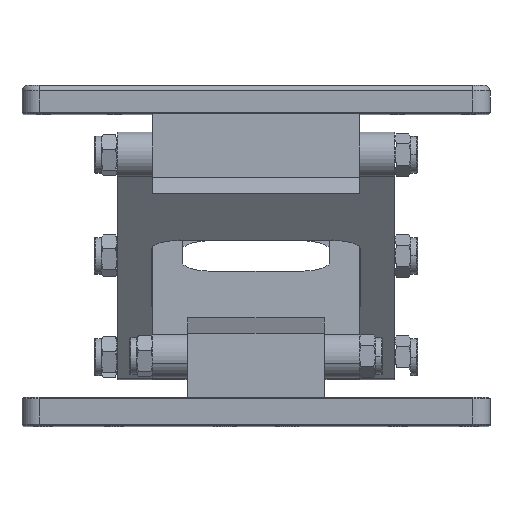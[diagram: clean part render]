
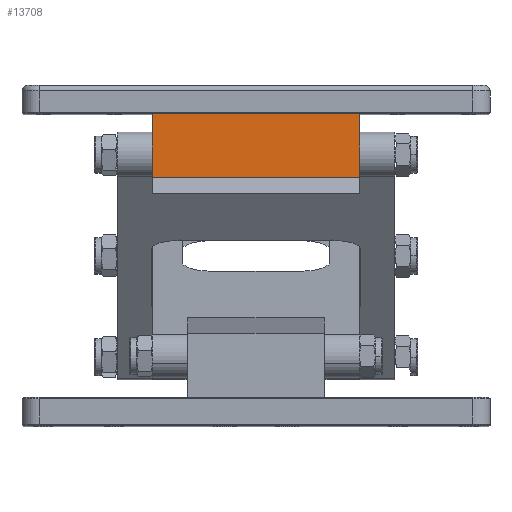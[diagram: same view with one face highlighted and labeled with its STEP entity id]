
A CAD part, top view. The second image highlights one B-rep face of the part: STEP entity #13708.
In plain terms, the highlighted planar face has unit normal (0, 0, 1).
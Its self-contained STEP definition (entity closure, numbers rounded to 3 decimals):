
#659 = VERTEX_POINT ( 'NONE', #27212 ) ;
#2217 = DIRECTION ( 'NONE',  ( 0., 0., -1. ) ) ;
#2238 = DIRECTION ( 'NONE',  ( 1., 0., 0. ) ) ;
#2362 = EDGE_CURVE ( 'NONE', #2571, #659, #3146, .T. ) ;
#2571 = VERTEX_POINT ( 'NONE', #13731 ) ;
#3146 = LINE ( 'NONE', #24573, #12675 ) ;
#6177 = DIRECTION ( 'NONE',  ( 1., 0., 0. ) ) ;
#6738 = CARTESIAN_POINT ( 'NONE',  ( -161.555, 212.22, 260.002 ) ) ;
#6949 = VECTOR ( 'NONE', #9898, 1000. ) ;
#7509 = ORIENTED_EDGE ( 'NONE', *, *, #27163, .T. ) ;
#9061 = CARTESIAN_POINT ( 'NONE',  ( -161.555, 212.22, 260.002 ) ) ;
#9185 = EDGE_LOOP ( 'NONE', ( #26102, #10982, #15810, #7509 ) ) ;
#9898 = DIRECTION ( 'NONE',  ( 0., -1., 0. ) ) ;
#10173 = EDGE_CURVE ( 'NONE', #19224, #17632, #23640, .T. ) ;
#10974 = CARTESIAN_POINT ( 'NONE',  ( -88.555, 212.22, 260.002 ) ) ;
#10982 = ORIENTED_EDGE ( 'NONE', *, *, #18883, .F. ) ;
#12313 = DIRECTION ( 'NONE',  ( 0., -1., 0. ) ) ;
#12675 = VECTOR ( 'NONE', #6177, 1000. ) ;
#13428 = VECTOR ( 'NONE', #2238, 1000. ) ;
#13708 = ADVANCED_FACE ( 'NONE', ( #21863 ), #29141, .F. ) ;
#13731 = CARTESIAN_POINT ( 'NONE',  ( -161.555, 189.72, 260.002 ) ) ;
#14699 = CARTESIAN_POINT ( 'NONE',  ( -161.555, 212.22, 260.002 ) ) ;
#15810 = ORIENTED_EDGE ( 'NONE', *, *, #10173, .F. ) ;
#17632 = VERTEX_POINT ( 'NONE', #10974 ) ;
#17973 = DIRECTION ( 'NONE',  ( 0., 1., 0. ) ) ;
#18883 = EDGE_CURVE ( 'NONE', #17632, #659, #22589, .T. ) ;
#19224 = VERTEX_POINT ( 'NONE', #6738 ) ;
#21863 = FACE_OUTER_BOUND ( 'NONE', #9185, .T. ) ;
#22589 = LINE ( 'NONE', #25728, #25798 ) ;
#23640 = LINE ( 'NONE', #9061, #13428 ) ;
#24234 = LINE ( 'NONE', #14699, #6949 ) ;
#24573 = CARTESIAN_POINT ( 'NONE',  ( -161.555, 189.72, 260.002 ) ) ;
#24671 = CARTESIAN_POINT ( 'NONE',  ( -161.555, 212.22, 260.002 ) ) ;
#25728 = CARTESIAN_POINT ( 'NONE',  ( -88.555, 212.22, 260.002 ) ) ;
#25798 = VECTOR ( 'NONE', #12313, 1000. ) ;
#26102 = ORIENTED_EDGE ( 'NONE', *, *, #2362, .T. ) ;
#27163 = EDGE_CURVE ( 'NONE', #19224, #2571, #24234, .T. ) ;
#27212 = CARTESIAN_POINT ( 'NONE',  ( -88.555, 189.72, 260.002 ) ) ;
#27761 = AXIS2_PLACEMENT_3D ( 'NONE', #24671, #2217, #17973 ) ;
#29141 = PLANE ( 'NONE',  #27761 ) ;
